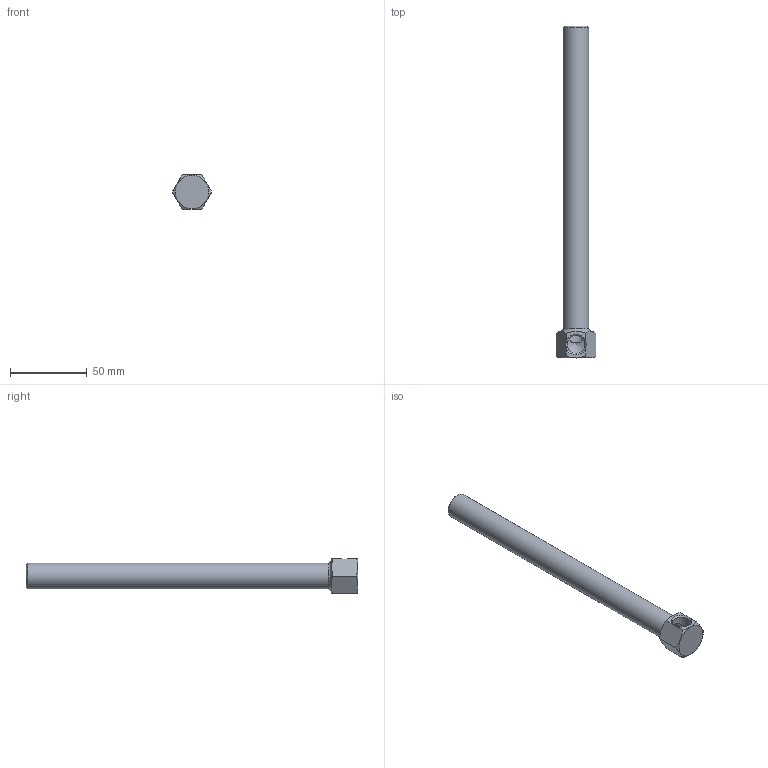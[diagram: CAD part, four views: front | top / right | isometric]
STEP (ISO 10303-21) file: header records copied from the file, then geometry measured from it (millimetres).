
FILE_DESCRIPTION(/* description */ (''),/* implementation_level */ '2;1');
FILE_NAME(/* name */ 'C:/Users/drich/Desktop/1438B-8-1_2 v1.step',/* time_stamp */ '2019-12-29T15:28:30-06:00',/* author */ (''),/* organization */ (''),/* preprocessor_version */ 'ST-DEVELOPER v18',/* originating_system */ 'Autodesk Translation Framework v8.12.0.6',/* authorisation */ '');
FILE_SCHEMA (('AUTOMOTIVE_DESIGN { 1 0 10303 214 3 1 1 }'));
Length unit declared in the file: inch
Products named in the file (1): 1438B-8-1_2
Bounding box: 25.66 x 215.9 x 22.23 mm (x, y, z)
Volume: 25853.5 mm3; surface area: 20276.7 mm2
Topology: 1 solids, 1 shells, 23 faces, 62 edges, 40 vertices
Faces by surface type: plane 10, cone 8, cylinder 4, torus 1
Full cylindrical faces by diameter (mm): 11.668 x1, 11.887 x1, 16.537 x1
Entity records: 821 total; most frequent: CARTESIAN_POINT 247, ORIENTED_EDGE 122, DIRECTION 104, EDGE_CURVE 61, AXIS2_PLACEMENT_3D 43, VERTEX_POINT 40, EDGE_LOOP 25, FACE_OUTER_BOUND 23
